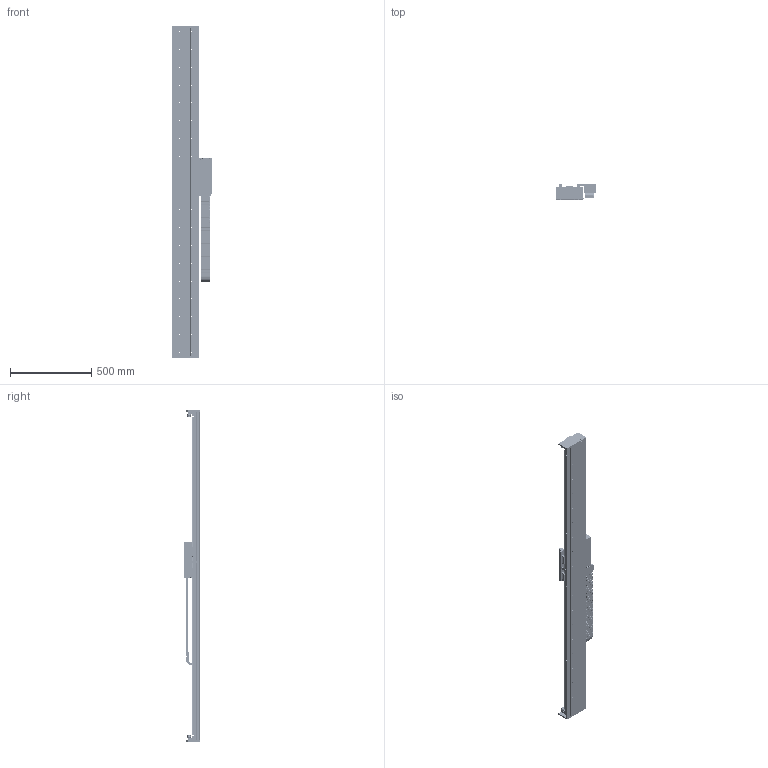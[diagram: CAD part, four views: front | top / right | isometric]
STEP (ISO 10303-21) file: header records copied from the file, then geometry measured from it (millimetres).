
FILE_DESCRIPTION (( 'STEP AP203' ), '1' );
FILE_NAME ('STF35120P-xC1B-Axx.STEP', '2007-09-17T21:10:02', ( 'Yaskawa' ), ( 'Yaskawa' ), 'SwSTEP 2.0', 'SolidWorks 2007', '' );
FILE_SCHEMA (( 'CONFIG_CONTROL_DESIGN' ));
Products named in the file (64): STF35BM Base_STF35120-015; STF35120 Base_STF35BM-015; SGLFM-35324AC; SGLFM-35540AC; STF2035-007 End Stop; Bumper-Medium; B18.3.1M - 6 x 1.0 x 16 Hex SHCS -- 16NHX_B18.3.1M - 6 x 1.0 x 16 Hex SHCS -- 16NHX; Mult-SR15+580LY_015; STF2035-002A-R2 F2035 Carriage Horn; STF2035-005-R2 Cable Router; STF2035-003 Renishaw Encoder Mount; RGH22B; STCM-R1; STCM-001-R2 Cable Bracket; STCM-002-R2 Cable Assembly Front; STCM-003 Cable Assembly Bottom; STCM-006-R1 Upper E-chain Bracket; Serial Converter; B18.3.5M - 3 x 0.5 x 6 Socket FCHS  -- 6N_B18.3.5M - 3 x 0.5 x 6 Socket FCHS  -- 6N; B18.3.1M - 4 x 0.7 x 12 Hex SHCS -- 12CHX_B18.3.1M - 4 x 0.7 x 12 Hex SHCS -- 12CHX; B18.3.1M - 6 x 1.0 x 25 Hex SHCS -- 25CHX_B18.3.1M - 6 x 1.0 x 25 Hex SHCS -- 25CHX; STCM-007 Lower E-Chain Bracket; STF20120P; 07.50.028.0_96; 07.50.028.0_97; 07.50.028.0_100; 07.50.028.0_101; 07.50.028.0_102; 07.50.028.0_103; 07.50.028.0_107; 07.50.028.0_108; 07.50.028.0_109; 07.50.028.0_110; 07.50.028.0_112; 07.50.028.0_115; 07.50.028.0_116; 07.50.028.0_118; 07.50.028.0_119; 07.50.028.0_123; 07.50.028.0_105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
Assembly tree (134 placements, depth 4):
  STF35120P-xC1B-Axx
    STF20120P
      07.50.028.0_108
      07.50.028.0_104
      07.50.028.0_100
      07.50.028.0_98
      07.50.028.0_103
      07.50.028.0_107
      07.50.028.0_111  x16
      07.50.028.0_117
      07.50.028.0_118
      07.50.028.0_122
      07.50.028.0_115
      07.50.028.0_105  x14
      07.50.028.0_97
      07.50.028.0_109
      07.50.028.0_116
      07.50.028.0_121
      07.50.028.0_113
      07.50.028.0_120
      07.50.028.0_106
      07.50.028.0_112
      07.50.028.0_114
      07.50.028.0_123
      07.50.028.0_119
      07.50.028.0_101
      07.50.028.0_96
      07.50.028.0_99
      07.50.028.0_102
      07.50.028.0_110
    STF2035-006 Endplate  x2
    STF35BM Base_STF35120-015
      End Stop with Bumper  x4
        B18.3.1M - 6 x 1.0 x 16 Hex SHCS -- 16NHX_B18.3.1M - 6 x 1.0 x 16 Hex SHCS -- 16NHX
        STF2035-007 End Stop
        Bumper-Medium
      STF35120 Base_STF35BM-015
      SGLFM-35756AC
      SGLFM-35324AC  x2
      Mult-SR15+580LY_015  x2
      SGLFM-35540AC
    STCM-007 Lower E-Chain Bracket
    STF35120 Complete Carriage
      B18.3.1M - 4 x 0.7 x 12 Hex SHCS -- 12CHX_B18.3.1M - 4 x 0.7 x 12 Hex SHCS -- 12CHX  x18
      B18.3.1M - 6 x 1.0 x 25 Hex SHCS -- 25CHX_B18.3.1M - 6 x 1.0 x 25 Hex SHCS -- 25CHX  x6
      B18.3.4M - 3 x 0.5 x 12 SBHCS --N_B18.3.4M - 3 x 0.5 x 12 SBHCS --N  x3
      STF35-120 SSR15W Carriage-R2
        SSR15W Block  x4
        SGLFW-35120AP
        STF2035-002A-R2 F2035 Carriage Horn  x2
        STF2035-005-R2 Cable Router
        RGH22B
        STF2035-003 Renishaw Encoder Mount
        STF2035-001C F35-120 Carriage
        STF2035-004 Flag
      STCM-R1
        B18.3.4M - 3 x 0.5 x 12 SBHCS --N_B18.3.4M - 3 x 0.5 x 12 SBHCS --N  x4
        B18.3.5M - 3 x 0.5 x 6 Socket FCHS  -- 6N_B18.3.5M - 3 x 0.5 x 6 Socket FCHS  -- 6N  x6
        STCM-001-R2 Cable Bracket
        STCM-002-R2 Cable Assembly Front
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Bounding box: 251.03 x 94.7 x 2049.05 mm (x, y, z)
Volume: 9528993 mm3; surface area: 2691751.3 mm2
Topology: 188 solids, 188 shells, 9054 faces, 23049 edges, 14542 vertices
Faces by surface type: plane 4631, cylinder 3443, cone 836, torus 86, bspline 44, sphere 14
Entity records: 161486 total; most frequent: DIRECTION 27296, CARTESIAN_POINT 26550, ORIENTED_EDGE 25096, EDGE_CURVE 12548, AXIS2_PLACEMENT_3D 9602, VERTEX_POINT 8195, LINE 8092, VECTOR 8092
